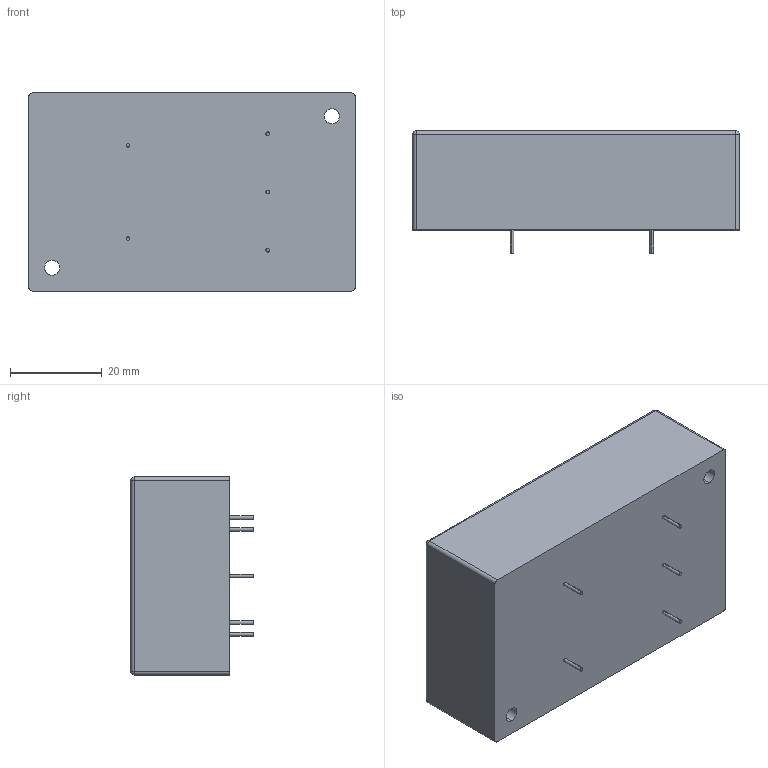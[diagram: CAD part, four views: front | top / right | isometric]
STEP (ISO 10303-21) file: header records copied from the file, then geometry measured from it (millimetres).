
FILE_DESCRIPTION (( 'STEP AP214' ), '1' );
FILE_NAME ('F02-F60 wCT.STEP', '2017-10-17T17:52:15', ( '' ), ( '' ), 'SwSTEP 2.0', 'SolidWorks 2017', '' );
FILE_SCHEMA (( 'AUTOMOTIVE_DESIGN' ));
Length unit declared in the file: inch
Products named in the file (1): F02-F60 wCT
Bounding box: 71.12 x 26.67 x 43.18 mm (x, y, z)
Volume: 65914.2 mm3; surface area: 11445.7 mm2
Topology: 1 solids, 1 shells, 37 faces, 82 edges, 48 vertices
Faces by surface type: cylinder 22, plane 11, sphere 4
Entity records: 1334 total; most frequent: DIRECTION 198, CARTESIAN_POINT 164, ORIENTED_EDGE 156, AXIS2_PLACEMENT_3D 82, EDGE_CURVE 78, VERTEX_POINT 48, EDGE_LOOP 46, CIRCLE 44
